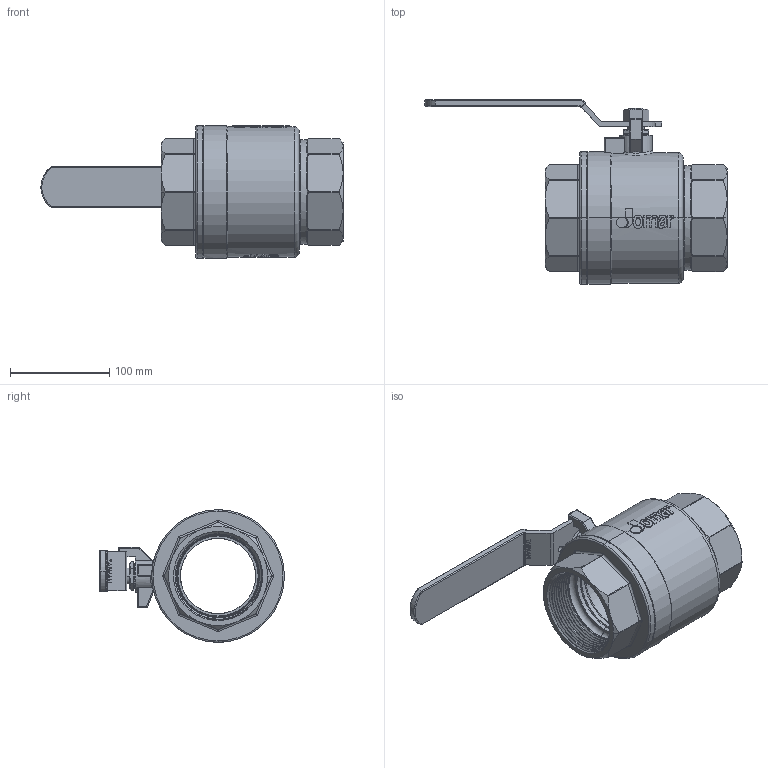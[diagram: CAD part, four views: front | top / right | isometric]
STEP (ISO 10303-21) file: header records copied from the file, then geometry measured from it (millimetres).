
FILE_DESCRIPTION (( 'STEP AP203' ), '1' );
FILE_NAME ('ABL710-無掛鎖-3''''全流量JOMA球閥體組合-無鉛-端面無插溝-2025.STEP', '2025-06-25T06:46:34', ( '' ), ( '' ), 'SwSTEP 2.0', 'SolidWorks 2018', '' );
FILE_SCHEMA (( 'CONFIG_CONTROL_DESIGN' ));
Length unit declared in the file: millimetre
Products named in the file (13): EBL209A; BBL710-3''''JOMA球閥體-無鉛-端面無插溝; GBL210; BBL710A-3''''JOMA球閥八角頭-無鉛-端面無插溝; ABL710-無掛鎖-3''''全流量JOMA球閥體組合-無鉛-端面無插溝-2025; RBL270; EBL241; NBL270; DN65 & DN80-CBL270白色膠套-T-200CSSG; DN65 & DN80-CBL709-無掛鎖組合-白色膠套 T200CSSG; CBL270; EBL209B; TBL271
Assembly tree (13 placements, depth 3):
  ABL710-無掛鎖-3''''全流量JOMA球閥體組合-無鉛-端面無插溝-2025
    BBL710-3''''JOMA球閥體-無鉛-端面無插溝
    RBL270
    EBL209A
    EBL209B
    GBL210
    BBL710A-3''''JOMA球閥八角頭-無鉛-端面無插溝
    EBL241  x2
    NBL270
    TBL271
    DN65 & DN80-CBL709-無掛鎖組合-白色膠套 T200CSSG
      CBL270
      DN65 & DN80-CBL270白色膠套-T-200CSSG
Bounding box: 305.2 x 186.61 x 134 mm (x, y, z)
Volume: 1058481.6 mm3; surface area: 341753.5 mm2
Topology: 12 solids, 12 shells, 2333 faces, 6262 edges, 4122 vertices
Faces by surface type: plane 1191, bspline 666, cylinder 288, cone 124, torus 52, sphere 12
Entity records: 136501 total; most frequent: CARTESIAN_POINT 82470, ORIENTED_EDGE 12456, DIRECTION 8245, EDGE_CURVE 6228, VERTEX_POINT 4104, VECTOR 3755, LINE 3755, EDGE_LOOP 2524
